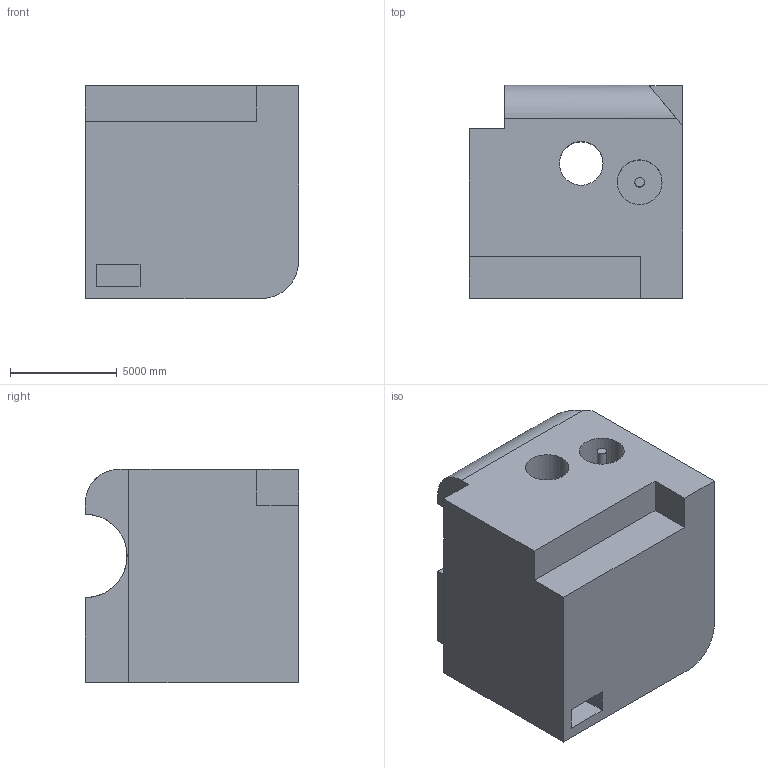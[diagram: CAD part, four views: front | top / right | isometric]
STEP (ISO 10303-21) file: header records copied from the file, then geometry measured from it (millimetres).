
FILE_DESCRIPTION (( 'STEP AP203' ), '1' );
FILE_NAME ('377.STEP', '2022-09-07T13:20:21', ( 'user' ), ( '' ), 'SwSTEP 2.0', 'SolidWorks 2021', '' );
FILE_SCHEMA (( 'CONFIG_CONTROL_DESIGN' ));
Length unit declared in the file: centimetre
Products named in the file (1): 377
Bounding box: 10000 x 10000 x 10000 mm (x, y, z)
Volume: 818607768020.8 mm3; surface area: 693634229.2 mm2
Topology: 1 solids, 1 shells, 31 faces, 78 edges, 52 vertices
Faces by surface type: plane 22, cylinder 9
Entity records: 1010 total; most frequent: CARTESIAN_POINT 171, DIRECTION 156, ORIENTED_EDGE 156, EDGE_CURVE 78, VECTOR 58, LINE 58, VERTEX_POINT 52, AXIS2_PLACEMENT_3D 49
